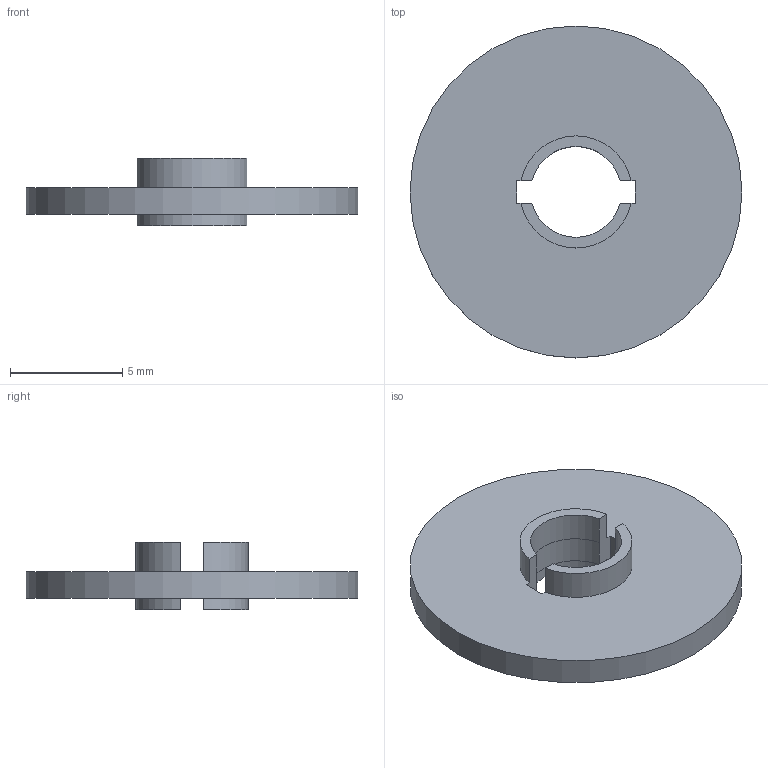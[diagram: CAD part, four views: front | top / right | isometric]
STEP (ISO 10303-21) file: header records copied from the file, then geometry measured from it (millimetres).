
FILE_DESCRIPTION(('Open CASCADE Model'),'2;1');
FILE_NAME('Open CASCADE Shape Model','2026-09-24T17:42:53',('Author'),( 'Open CASCADE'),'Open CASCADE STEP processor 7.8','Open CASCADE 7.8' ,'Unknown');
FILE_SCHEMA(('AUTOMOTIVE_DESIGN { 1 0 10303 214 1 1 1 1 }'));
Length unit declared in the file: millimetre
Products named in the file (1): Open CASCADE STEP translator 7.8 35
Bounding box: 14.8 x 14.8 x 3 mm (x, y, z)
Volume: 199.8 mm3; surface area: 437.4 mm2
Topology: 1 solids, 1 shells, 23 faces, 63 edges, 42 vertices
Faces by surface type: plane 12, cylinder 11
Full cylindrical faces by diameter (mm): 14.8 x1
Entity records: 1488 total; most frequent: CARTESIAN_POINT 335, DIRECTION 175, ORIENTED_EDGE 126, PCURVE 126, DEFINITIONAL_REPRESENTATION 126, B_SPLINE_CURVE_WITH_KNOTS 80, LINE 77, VECTOR 77
